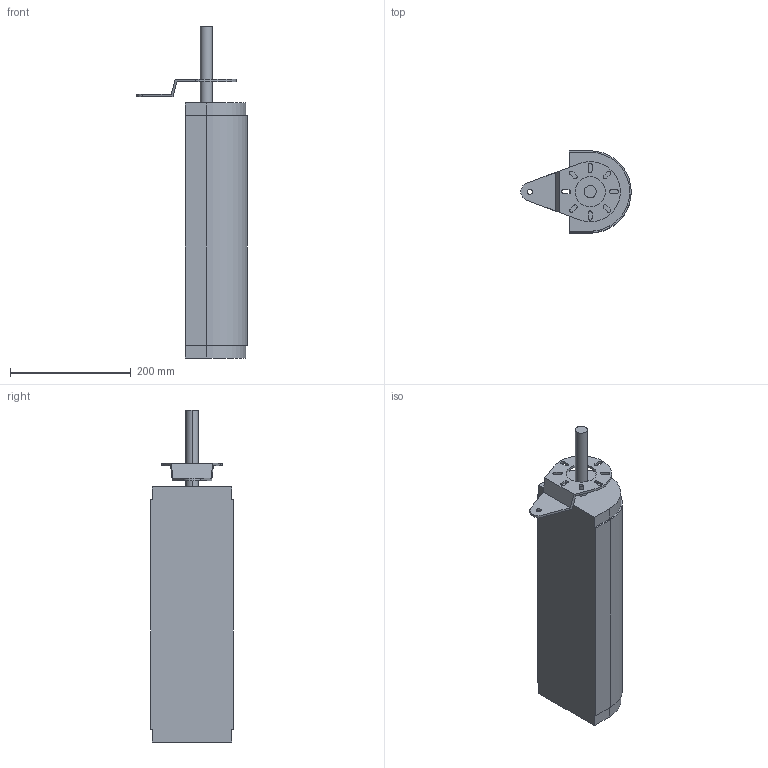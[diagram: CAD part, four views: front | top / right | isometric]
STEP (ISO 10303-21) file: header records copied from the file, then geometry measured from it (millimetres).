
FILE_DESCRIPTION (( 'STEP AP214' ), '1' );
FILE_NAME ('FS-MTC-150 420 rechts ra.STEP', '2017-12-21T09:28:25', ( '' ), ( '' ), 'SwSTEP 2.0', 'SolidWorks 2017', '' );
FILE_SCHEMA (( 'AUTOMOTIVE_DESIGN' ));
Length unit declared in the file: millimetre
Products named in the file (1): FS-MTC-150 420 rechts ra
Bounding box: 183 x 136 x 550.5 mm (x, y, z)
Volume: 5135488.1 mm3; surface area: 232265 mm2
Topology: 2 solids, 2 shells, 70 faces, 195 edges, 130 vertices
Faces by surface type: plane 36, cylinder 34
Entity records: 2350 total; most frequent: DIRECTION 405, CARTESIAN_POINT 396, ORIENTED_EDGE 390, EDGE_CURVE 195, AXIS2_PLACEMENT_3D 139, VERTEX_POINT 130, LINE 127, VECTOR 127
